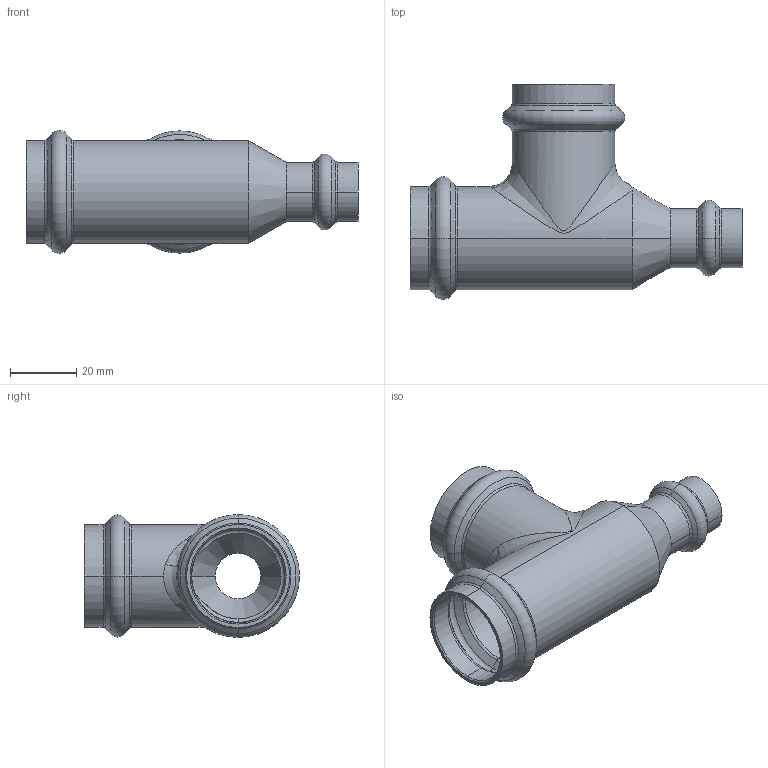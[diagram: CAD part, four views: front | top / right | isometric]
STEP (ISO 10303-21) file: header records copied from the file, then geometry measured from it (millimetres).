
FILE_DESCRIPTION (( 'STEP AP203' ), '1' );
FILE_NAME ('SP5130 Ø28-28-15.STEP', '2017-04-25T14:52:22', ( '' ), ( '' ), 'SwSTEP 2.0', 'SolidWorks 2016', '' );
FILE_SCHEMA (( 'CONFIG_CONTROL_DESIGN' ));
Length unit declared in the file: millimetre
Products named in the file (1): SP5130 Ø28-28-15
Bounding box: 100.5 x 65.1 x 37.2 mm (x, y, z)
Volume: 20861.3 mm3; surface area: 23682.8 mm2
Topology: 1 solids, 1 shells, 121 faces, 270 edges, 152 vertices
Faces by surface type: torus 43, cone 36, cylinder 33, plane 5, bspline 4
Entity records: 4937 total; most frequent: CARTESIAN_POINT 2114, DIRECTION 658, ORIENTED_EDGE 540, AXIS2_PLACEMENT_3D 296, EDGE_CURVE 270, CIRCLE 178, VERTEX_POINT 152, EDGE_LOOP 126
